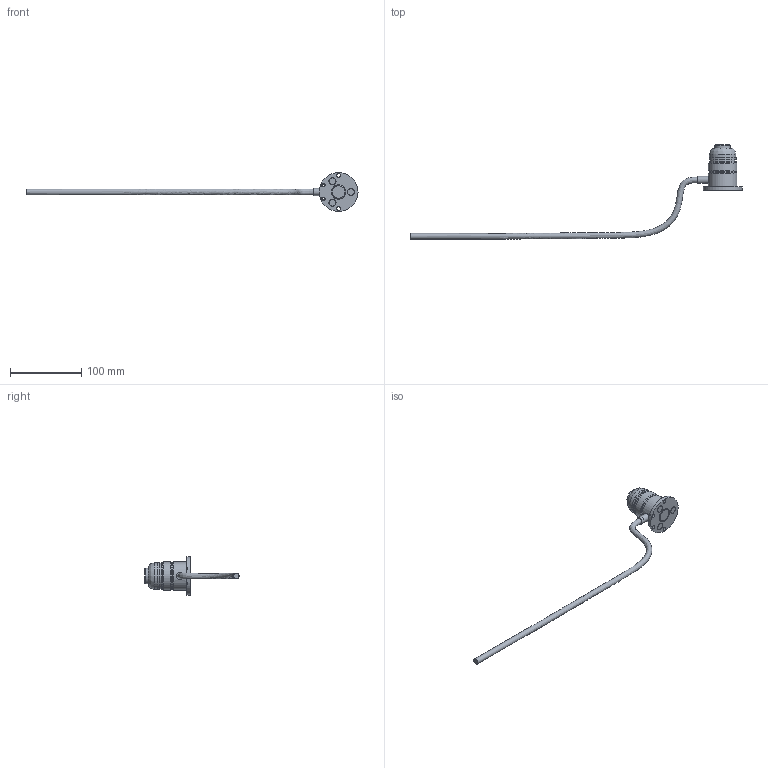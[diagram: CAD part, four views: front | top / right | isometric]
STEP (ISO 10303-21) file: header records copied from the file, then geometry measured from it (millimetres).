
FILE_DESCRIPTION(/* description */ (''),/* implementation_level */ '2;1');
FILE_NAME(/* name */ 'Z:\Проектный отдел\Алена\Датчик высоты нажимной MY20-20-2\Датчик высоты нажимной MY20-20-2.stp',/* time_stamp */ '2024-03-01T11:37:32+03:00',/* author */ ('User'),/* organization */ (''),/* preprocessor_version */ 'ST-DEVELOPER v18',/* originating_system */ 'Autodesk Inventor 2020',/* authorisation */ '');
FILE_SCHEMA (('AUTOMOTIVE_DESIGN { 1 0 10303 214 3 1 1 }'));
Length unit declared in the file: millimetre
Products named in the file (1): Датчик высоты 
нажимной MY20-20-2
Bounding box: 466.55 x 132.46 x 54.5 mm (x, y, z)
Volume: 99472.5 mm3; surface area: 25389.1 mm2
Topology: 2 solids, 2 shells, 55 faces, 140 edges, 108 vertices
Faces by surface type: cylinder 25, plane 24, cone 3, bspline 2, torus 1
Full cylindrical faces by diameter (mm): 3.5 x2, 5.4 x4, 9.611 x3, 10 x1, 10.011 x3, 19.9 x1, 20.5 x1, 22 x1, 28 x1, 36 x1, 37 x2, 37.9 x2, 39.9 x1, 40 x1, 54.5 x1
Entity records: 2252 total; most frequent: CARTESIAN_POINT 644, DIRECTION 349, ORIENTED_EDGE 280, AXIS2_PLACEMENT_3D 160, EDGE_CURVE 140, VERTEX_POINT 108, CIRCLE 106, EDGE_LOOP 82
